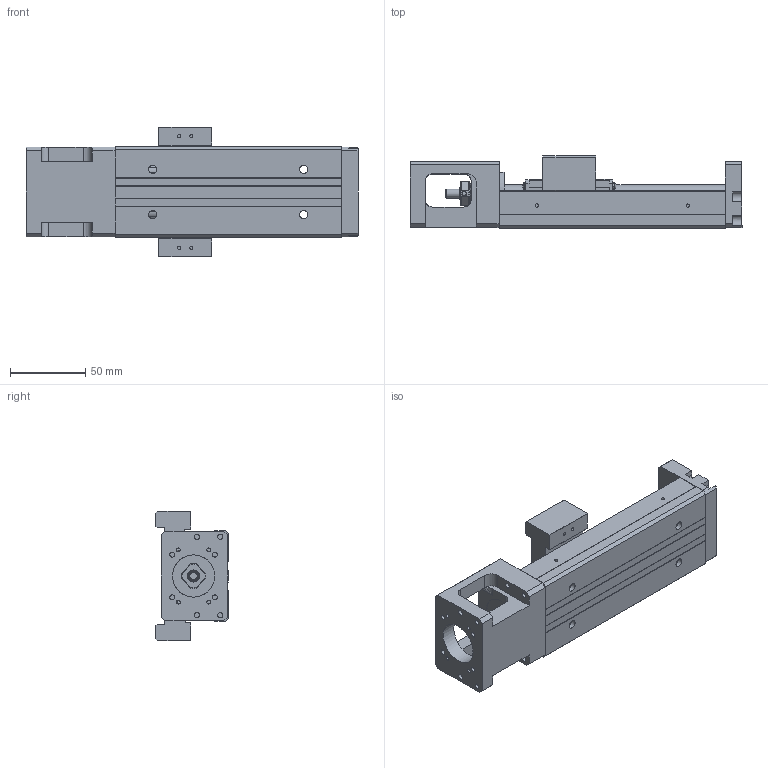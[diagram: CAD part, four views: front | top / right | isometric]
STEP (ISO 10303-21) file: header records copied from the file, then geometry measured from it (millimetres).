
FILE_DESCRIPTION(/* description */ (''),/* implementation_level */ '2;1');
FILE_NAME(/* name */ '33S-150.stp',/* time_stamp */ '2016-12-20T13:33:29+08:00',/* author */ (''),/* organization */ (''),/* preprocessor_version */ 'ST-DEVELOPER v11',/* originating_system */ 'SIEMENS UGS NX 6.0',/* authorisation */ '');
FILE_SCHEMA (('AUTOMOTIVE_DESIGN { 1 0 10303 214 1 1 1 1 }'));
Length unit declared in the file: millimetre
Products named in the file (1): model4
Bounding box: 220 x 47.95 x 86 mm (x, y, z)
Volume: 335994.4 mm3; surface area: 96336.5 mm2
Topology: 6 solids, 11 shells, 629 faces, 1614 edges, 1064 vertices
Faces by surface type: plane 381, cylinder 163, bspline 31, cone 22, extrusion 21, torus 9, revolution 2
Full cylindrical faces by diameter (mm): 1.6 x1, 1.65 x4, 2.15 x6, 2.42 x4, 2.45 x4, 2.5 x8, 3.2 x4, 3.3 x4, 3.4 x4, 3.5 x10, 3.969 x1, 4 x4, 4.001 x1, 4.135 x2, 4.2 x2, 5.5 x4, 6 x5, 7.6 x1, 8 x5, 9.5 x4, 10.72 x3, 11.8 x2, 12 x1, 12.8 x1, 13 x2, 14 x1, 17.38 x3, 21.5 x1, 22 x2, 28 x1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
Entity records: 33958 total; most frequent: CARTESIAN_POINT 15996, DIRECTION 2878, ORIENTED_EDGE 2844, EDGE_CURVE 1422, VERTEX_POINT 999, AXIS2_PLACEMENT_3D 989, VECTOR 898, EDGE_LOOP 877
